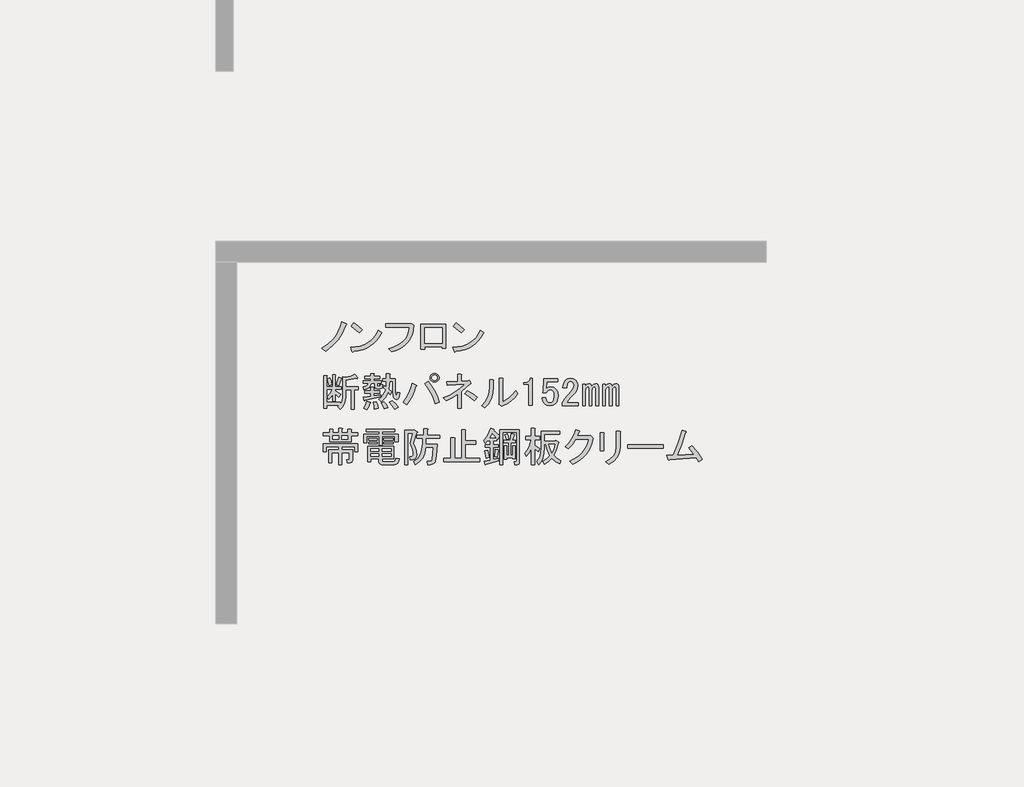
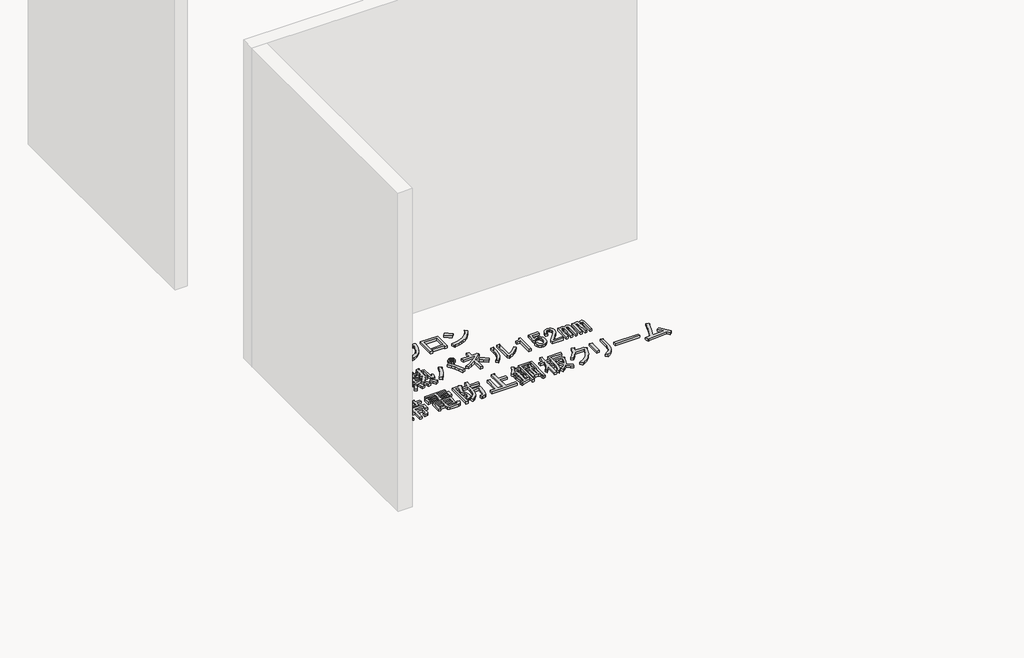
# One storey, part 17 of 117: 1 proxy.
"""IFC4 building model written with IfcOpenShell, lengths in millimetres."""

from ifc_helpers import new_model, si_unit, frame, origin, place, context, project, spatial, polyline, outline, extrude, element, save

model = new_model("IFC4")

# Units and contexts
model_context = context("Model", 3, world=origin())
ifc_project = project(units=[si_unit("LENGTHUNIT", "METRE", prefix="MILLI")], contexts=[model_context])

# Site, building, storey
site = spatial("IfcSite", under=ifc_project)
building = spatial("IfcBuilding", under=site)
storey = spatial("IfcBuildingStorey", under=building, Name="レベル 1", Elevation=500.0)

# Proxy
placement = place(None, origin())
element("IfcBuildingElementProxy", 1, Name="200㎜\u3000MS Pゴシック", ObjectType="200㎜\u3000MS Pゴシック", at=placement, inside=storey, context=model_context, shape_type="SweptSolid", body=[
    extrude(outline(polyline([(-15056.3293015, -12607.0496882), (-15081.9047498, -12666.8215225), (-15110.353844, -12712.7998566), (-15152.0217093, -12758.2034615), (-15201.1610538, -12795.560858), (-15228.7480543, -12773.7211493), (-15181.0455327, -12743.2605029), (-15141.3892195, -12704.7536481), (-15124.0036619, -12680.8305462), (-15108.6296565, -12652.7406577), (-15095.2672031, -12620.4839827), (-15083.9163019, -12584.0605212), (-15052.8809264, -12597.8540214), (-15049.7199159, -12602.4518548), (-15056.3293015, -12607.0496882)])), frame((0.0, 0.0, 500.0), z_axis=(0.0, 0.0, 1.0), x_axis=(1.0, 0.0, 0.0)), (0.0, 0.0, 1.0), 25.0),
    extrude(outline(polyline([(-14956.6022948, -12662.2236891), (-15015.2246708, -12615.0958967), (-14995.6838788, -12590.9572713), (-14968.3842429, -12610.7854279), (-14934.7625862, -12640.3839804), (-14956.6022948, -12662.2236891)])), frame((0.0, 0.0, 500.0), z_axis=(0.0, 0.0, 1.0), x_axis=(1.0, 0.0, 0.0)), (0.0, 0.0, 1.0), 25.0),
    extrude(outline(polyline([(-14794.5286672, -12662.2236891), (-14811.052131, -12691.965924), (-14830.1618761, -12717.9724192), (-14851.8579025, -12740.2431748), (-14876.1402102, -12758.7781907), (-14903.0087992, -12773.577467), (-14932.4636694, -12784.6410036), (-14964.504821, -12791.9688006), (-14999.1322539, -12795.560858), (-15004.8795456, -12803.6070664), (-15010.6268374, -12797.8597747), (-15019.8225042, -12767.9738575), (-14983.9917321, -12765.2977748), (-14951.2142088, -12758.9937141), (-14921.4899342, -12749.0616756), (-14894.8189084, -12735.5016591), (-14871.2011313, -12718.3136646), (-14850.636603, -12697.4976923), (-14833.1253234, -12673.053742), (-14818.6672926, -12644.9818138), (-14794.5286672, -12662.2236891)])), frame((0.0, 0.0, 500.0), z_axis=(0.0, 0.0, 1.0), x_axis=(1.0, 0.0, 0.0)), (0.0, 0.0, 1.0), 25.0),
    extrude(outline(polyline([(-14743.7685864, -12777.1695243), (-14709.985287, -12767.4889298), (-14680.4765359, -12755.1142922), (-14655.242333, -12740.0456116), (-14634.2826783, -12722.282888), (-14617.597572, -12701.8261214), (-14605.1870138, -12678.6753118), (-14597.0510039, -12652.8304591), (-14593.1895423, -12624.2915635), (-14765.6082951, -12624.2915635), (-14765.6082951, -12599.0034798), (-14590.8906256, -12599.0034798), (-14574.7982086, -12595.5551047), (-14562.1541668, -12607.0496882), (-14565.674383, -12643.5449909), (-14573.9361149, -12676.5919185), (-14586.9393625, -12706.1904711), (-14604.6841258, -12732.3406486), (-14627.1704048, -12755.042451), (-14654.3981995, -12774.2958784), (-14686.3675099, -12790.1009308), (-14723.078336, -12802.4576081), (-14743.7685864, -12777.1695243)])), frame((0.0, 0.0, 500.0), z_axis=(0.0, 0.0, 1.0), x_axis=(1.0, 0.0, 0.0)), (0.0, 0.0, 1.0), 25.0),
    extrude(outline(polyline([(-14329.044013, -12776.020066), (-14355.4815551, -12776.020066), (-14355.4815551, -12763.3760241), (-14483.0714321, -12763.3760241), (-14483.0714321, -12781.7673577), (-14509.5089742, -12781.7673577), (-14509.5089742, -12602.4518548), (-14329.044013, -12602.4518548), (-14329.044013, -12776.020066)]), holes=[polyline([(-14483.0714321, -12627.7399386), (-14483.0714321, -12738.0879404), (-14355.4815551, -12738.0879404), (-14355.4815551, -12627.7399386), (-14483.0714321, -12627.7399386)])]), frame((0.0, 0.0, 500.0), z_axis=(0.0, 0.0, 1.0), x_axis=(1.0, 0.0, 0.0)), (0.0, 0.0, 1.0), 25.0),
    extrude(outline(polyline([(-14052.9900951, -12662.2236891), (-14069.5135589, -12691.965924), (-14088.623304, -12717.9724192), (-14110.3193304, -12740.2431748), (-14134.6016381, -12758.7781907), (-14161.4702271, -12773.577467), (-14190.9250974, -12784.6410036), (-14222.9662489, -12791.9688006), (-14257.5936818, -12795.560858), (-14263.3409736, -12803.6070664), (-14269.0882653, -12797.8597747), (-14278.2839321, -12767.9738575), (-14242.4531601, -12765.2977748), (-14209.6756367, -12758.9937141), (-14179.9513622, -12749.0616756), (-14153.2803363, -12735.5016591), (-14129.6625593, -12718.3136646), (-14109.0980309, -12697.4976923), (-14091.5867514, -12673.053742), (-14077.1287205, -12644.9818138), (-14052.9900951, -12662.2236891)])), frame((0.0, 0.0, 500.0), z_axis=(0.0, 0.0, 1.0), x_axis=(1.0, 0.0, 0.0)), (0.0, 0.0, 1.0), 25.0),
    extrude(outline(polyline([(-14215.0637228, -12662.2236891), (-14273.6860987, -12615.0958967), (-14254.1453067, -12590.9572713), (-14226.8456709, -12610.7854279), (-14193.2240141, -12640.3839804), (-14215.0637228, -12662.2236891)])), frame((0.0, 0.0, 500.0), z_axis=(0.0, 0.0, 1.0), x_axis=(1.0, 0.0, 0.0)), (0.0, 0.0, 1.0), 25.0),
    extrude(outline(polyline([(-15122.9978859, -13039.2345221), (-15105.7560106, -12986.3594379), (-15085.0657603, -12992.1067296), (-15083.3415727, -12995.2677401), (-15087.364677, -12997.8540214), (-15104.6065523, -13046.1312722), (-15122.9978859, -13039.2345221)])), frame((0.0, 0.0, 500.0), z_axis=(0.0, 0.0, 1.0), x_axis=(1.0, 0.0, 0.0)), (0.0, 0.0, 1.0), 25.0),
    extrude(outline(polyline([(-14968.9704667, -12990.9572713), (-14970.6946542, -12995.5551047), (-14978.1661335, -12993.256188), (-15055.1798431, -13005.9002299), (-15055.1798431, -13055.326939), (-14963.2231749, -13055.326939), (-14963.2231749, -13077.1666477), (-14994.2585505, -13077.1666477), (-14994.2585505, -13217.4005666), (-15017.2477175, -13217.4005666), (-15017.2477175, -13077.1666477), (-15055.1798431, -13077.1666477), (-15055.1798431, -13126.5933568), (-15057.7661244, -13154.3958807), (-15065.5249683, -13179.1810764), (-15078.4563747, -13200.948944), (-15096.5603438, -13219.6994833), (-15113.8022191, -13200.1586914), (-15103.4570939, -13190.9630245), (-15193.1148454, -13190.9630245), (-15193.1148454, -13212.8027332), (-15216.1040124, -13212.8027332), (-15216.1040124, -12973.715396), (-15194.2643037, -12973.715396), (-15189.3791057, -12976.0143127), (-15193.1148454, -12980.6121461), (-15193.1148454, -13056.4763974), (-15150.5848863, -13056.4763974), (-15150.5848863, -12969.1175626), (-15132.1935527, -12969.1175626), (-15127.3083547, -12971.4164793), (-15131.0440943, -12976.0143127), (-15131.0440943, -13056.4763974), (-15087.364677, -13056.4763974), (-15087.364677, -13074.867731), (-15131.0440943, -13074.867731), (-15131.0440943, -13084.0633978), (-15090.813052, -13110.5009399), (-15104.6065523, -13132.3406486), (-15131.0440943, -13105.9031065), (-15131.0440943, -13158.7781907), (-15150.5848863, -13158.7781907), (-15150.5848863, -13110.5009399), (-15163.8036574, -13130.3290965), (-15178.1718868, -13146.1341488), (-15190.8159287, -13127.7428152), (-15168.97622, -13103.6041898), (-15151.7343447, -13074.867731), (-15193.1148454, -13074.867731), (-15193.1148454, -13169.1233159), (-15095.4108854, -13169.1233159), (-15095.4108854, -13182.9168161), (-15082.479479, -13158.7781907), (-15078.1690102, -13125.4438985), (-15078.1690102, -12980.6121461), (-15056.3293015, -12986.3594379), (-15020.1213634, -12978.8879586), (-14989.660717, -12965.6691875), (-14968.9704667, -12990.9572713)])), frame((0.0, 0.0, 500.0), z_axis=(0.0, 0.0, 1.0), x_axis=(1.0, 0.0, 0.0)), (0.0, 0.0, 1.0), 25.0),
    extrude(outline(polyline([(-15177.0224284, -13047.2807305), (-15189.6664703, -12996.7045631), (-15170.1256783, -12989.8078129), (-15162.3668344, -13013.9464383), (-15157.4816364, -13040.3839804), (-15177.0224284, -13047.2807305)])), frame((0.0, 0.0, 500.0), z_axis=(0.0, 0.0, 1.0), x_axis=(1.0, 0.0, 0.0)), (0.0, 0.0, 1.0), 25.0),
    extrude(outline(polyline([(-14878.1632569, -13167.9738575), (-14874.7148818, -13172.8590555), (-14880.4621736, -13176.020066), (-14890.2325696, -13201.5955143), (-14901.1524239, -13220.8489417), (-14924.141591, -13209.3543582), (-14911.4975491, -13185.790462), (-14901.1524239, -13158.7781907), (-14878.1632569, -13167.9738575)])), frame((0.0, 0.0, 500.0), z_axis=(0.0, 0.0, 1.0), x_axis=(1.0, 0.0, 0.0)), (0.0, 0.0, 1.0), 25.0),
    extrude(outline(polyline([(-14833.3343812, -13163.3760241), (-14823.2766206, -13190.67566), (-14818.3914226, -13212.8027332), (-14847.1278814, -13218.550025), (-14849.7141627, -13196.9976809), (-14857.4730066, -13166.8243992), (-14833.3343812, -13163.3760241)])), frame((0.0, 0.0, 500.0), z_axis=(0.0, 0.0, 1.0), x_axis=(1.0, 0.0, 0.0)), (0.0, 0.0, 1.0), 25.0),
    extrude(outline(polyline([(-14718.388546, -13157.6287323), (-14693.6751914, -13178.8937119), (-14674.7091286, -13203.6070664), (-14701.1466707, -13218.550025), (-14720.4000981, -13188.9514724), (-14739.0787963, -13169.1233159), (-14718.388546, -13157.6287323)])), frame((0.0, 0.0, 500.0), z_axis=(0.0, 0.0, 1.0), x_axis=(1.0, 0.0, 0.0)), (0.0, 0.0, 1.0), 25.0),
    extrude(outline(polyline([(-14777.0109219, -13216.2511083), (-14785.344495, -13191.5377537), (-14798.8506306, -13170.2727742), (-14778.1603803, -13162.2265657), (-14761.2058696, -13183.7789098), (-14749.4239215, -13207.0554415), (-14777.0109219, -13216.2511083)])), frame((0.0, 0.0, 500.0), z_axis=(0.0, 0.0, 1.0), x_axis=(1.0, 0.0, 0.0)), (0.0, 0.0, 1.0), 25.0),
    extrude(outline(polyline([(-14916.0953825, -13153.0308989), (-14918.1069346, -13157.9160969), (-14921.8426743, -13156.479274), (-14927.589966, -13132.3406486), (-14872.4159651, -13124.2944401), (-14872.4159651, -13101.3052731), (-14916.0953825, -13101.3052731), (-14916.0953825, -13082.9139395), (-14872.4159651, -13082.9139395), (-14872.4159651, -13059.9247724), (-14854.0246315, -13059.9247724), (-14849.1394335, -13062.2236891), (-14852.8751732, -13066.8215225), (-14852.8751732, -13082.9139395), (-14808.0462974, -13082.9139395), (-14808.0462974, -13101.3052731), (-14852.8751732, -13101.3052731), (-14852.8751732, -13120.8460651), (-14802.2990057, -13111.6503983), (-14802.2990057, -13127.7428152), (-14916.0953825, -13153.0308989)])), frame((0.0, 0.0, 500.0), z_axis=(0.0, 0.0, 1.0), x_axis=(1.0, 0.0, 0.0)), (0.0, 0.0, 1.0), 25.0),
    extrude(outline(polyline([(-14845.978423, -13031.1883136), (-14871.2665068, -13031.1883136), (-14875.8643402, -13048.6457123), (-14886.2094654, -13061.9363245), (-14902.3018823, -13071.0601502), (-14924.141591, -13076.0171893), (-14928.7394244, -13056.4763974), (-14903.4513406, -13047.8554597), (-14895.9798614, -13040.5276627), (-14891.9567571, -13031.1883136), (-14927.589966, -13031.1883136), (-14927.589966, -13012.79698), (-14873.5654235, -13012.79698), (-14873.5654235, -12995.5551047), (-14917.2448409, -12995.5551047), (-14917.2448409, -12977.1637711), (-14873.5654235, -12977.1637711), (-14873.5654235, -12958.7724374), (-14851.7257148, -12958.7724374), (-14846.8405168, -12961.0713541), (-14850.5762564, -12965.6691875), (-14850.5762564, -12977.1637711), (-14808.0462974, -12977.1637711), (-14808.0462974, -12995.5551047), (-14850.5762564, -12995.5551047), (-14850.5762564, -13012.79698), (-14797.7011723, -13012.79698), (-14797.7011723, -13031.1883136), (-14826.4376311, -13031.1883136), (-14826.4376311, -13043.8323555), (-14825.0008081, -13049.0049181), (-14820.6903393, -13050.7291056), (-14810.3452141, -13050.7291056), (-14806.6094745, -13047.5680951), (-14806.8968391, -13038.0850637), (-14787.3560471, -13040.3839804), (-14790.229693, -13061.9363245), (-14795.5459378, -13067.3244106), (-14803.448464, -13069.1204392), (-14827.5870894, -13069.1204392), (-14841.3805896, -13064.2352412), (-14845.978423, -13049.5796472), (-14845.978423, -13031.1883136)])), frame((0.0, 0.0, 500.0), z_axis=(0.0, 0.0, 1.0), x_axis=(1.0, 0.0, 0.0)), (0.0, 0.0, 1.0), 25.0),
    extrude(outline(polyline([(-14714.9401709, -13013.9464383), (-14736.7798796, -13013.9464383), (-14741.377713, -13071.4193559), (-14721.836921, -13089.8106896), (-14732.1820462, -13111.6503983), (-14748.2744631, -13095.5579813), (-14767.5278905, -13133.2027424), (-14797.7011723, -13165.6749408), (-14814.9430475, -13144.9846905), (-14799.8564067, -13133.0590601), (-14786.7813179, -13117.9724192), (-14775.7177813, -13099.7247679), (-14766.6657967, -13078.316106), (-14783.907672, -13063.3731475), (-14775.8614636, -13046.1312722), (-14762.0679633, -13056.4763974), (-14759.7690466, -13013.9464383), (-14787.3560471, -13013.9464383), (-14787.3560471, -12995.5551047), (-14759.7690466, -12995.5551047), (-14759.7690466, -12961.0713541), (-14737.9293379, -12961.0713541), (-14733.04414, -12963.3702708), (-14736.7798796, -12967.9681043), (-14736.7798796, -12995.5551047), (-14695.3993789, -12995.5551047), (-14695.3993789, -13092.1096063), (-14691.9510039, -13116.2482317), (-14688.7181523, -13118.2597838), (-14685.9163475, -13115.0987733), (-14681.6058787, -13093.2590646), (-14662.0650867, -13100.1558147), (-14666.591079, -13126.9525626), (-14674.421764, -13142.9731384), (-14685.5571418, -13148.2175421), (-14699.9972123, -13142.6857738), (-14706.5347567, -13135.3579768), (-14711.2044313, -13123.719711), (-14714.9401709, -13087.5117729), (-14714.9401709, -13013.9464383)])), frame((0.0, 0.0, 500.0), z_axis=(0.0, 0.0, 1.0), x_axis=(1.0, 0.0, 0.0)), (0.0, 0.0, 1.0), 25.0),
    extrude(outline(polyline([(-14456.3120417, -13016.245355), (-14429.6589762, -13052.9561812), (-14407.1726971, -13090.6727833), (-14388.8532047, -13129.3951616), (-14374.7004987, -13169.1233159), (-14405.7358742, -13179.468441), (-14421.1817208, -13136.3637528), (-14438.7828018, -13097.856898), (-14458.5391173, -13063.9478766), (-14480.4506671, -13034.6366887), (-14456.3120417, -13016.245355)])), frame((0.0, 0.0, 500.0), z_axis=(0.0, 0.0, 1.0), x_axis=(1.0, 0.0, 0.0)), (0.0, 0.0, 1.0), 25.0),
    extrude(outline(polyline([(-14543.6708765, -13042.6828971), (-14539.6477722, -13048.1428243), (-14545.9697932, -13053.0280223), (-14557.8954236, -13088.4457078), (-14572.9820644, -13122.282888), (-14591.2297158, -13154.539563), (-14612.6383776, -13185.2157328), (-14639.0759197, -13167.9738575), (-14615.8712292, -13136.5074351), (-14596.8333252, -13103.0294606), (-14581.9622078, -13067.539934), (-14571.2578769, -13030.0388553), (-14543.6708765, -13042.6828971)])), frame((0.0, 0.0, 500.0), z_axis=(0.0, 0.0, 1.0), x_axis=(1.0, 0.0, 0.0)), (0.0, 0.0, 1.0), 25.0),
    extrude(outline(polyline([(-14410.3337076, -13021.9926468), (-14422.9777495, -13019.6937301), (-14433.3228747, -13012.79698), (-14440.2196248, -13002.4518548), (-14442.5185415, -12989.8078129), (-14440.2196248, -12977.1637711), (-14433.3228747, -12966.8186459), (-14422.9777495, -12959.9218958), (-14410.3337076, -12957.6229791), (-14397.6896657, -12959.9218958), (-14387.3445406, -12966.8186459), (-14380.4477905, -12977.1637711), (-14378.1488738, -12989.8078129), (-14380.4477905, -13002.4518548), (-14387.3445406, -13012.79698), (-14397.6896657, -13019.6937301), (-14410.3337076, -13021.9926468)]), holes=[polyline([(-14410.3337076, -13010.4980633), (-14402.0001346, -13009.0612403), (-14395.390749, -13004.7507715), (-14391.0802802, -12998.141386), (-14389.6434573, -12989.8078129), (-14391.0802802, -12981.4742399), (-14395.390749, -12974.8648544), (-14402.0001346, -12970.5543855), (-14410.3337076, -12969.1175626), (-14418.6672807, -12970.5543855), (-14425.2766662, -12974.8648544), (-14429.587135, -12981.4742399), (-14431.023958, -12989.8078129), (-14429.587135, -12998.141386), (-14425.2766662, -13004.7507715), (-14418.6672807, -13009.0612403), (-14410.3337076, -13010.4980633)])]), frame((0.0, 0.0, 500.0), z_axis=(0.0, 0.0, 1.0), x_axis=(1.0, 0.0, 0.0)), (0.0, 0.0, 1.0), 25.0),
    extrude(outline(polyline([(-14120.6702029, -13155.3298156), (-14157.7402348, -13126.0186277), (-14190.7871624, -13104.7536481), (-14173.5452871, -13082.9139395), (-14134.7510677, -13106.1904711), (-14101.1294109, -13132.3406486), (-14120.6702029, -13155.3298156)])), frame((0.0, 0.0, 500.0), z_axis=(0.0, 0.0, 1.0), x_axis=(1.0, 0.0, 0.0)), (0.0, 0.0, 1.0), 25.0),
    extrude(outline(polyline([(-14166.648537, -13011.6475216), (-14159.7517869, -13009.3486049), (-14147.107745, -13026.5904802), (-14145.9582866, -13032.6251366), (-14151.7055784, -13034.6366887), (-14214.9257878, -13090.9601479), (-14214.9257878, -13211.6532749), (-14241.3633299, -13211.6532749), (-14241.3633299, -13109.3514816), (-14281.5943722, -13133.4901069), (-14326.4232479, -13155.3298156), (-14345.9640399, -13134.6395653), (-14300.4167527, -13115.1706145), (-14259.1799343, -13092.3969709), (-14222.2535848, -13066.3186345), (-14189.637704, -13036.9356054), (-14319.5264978, -13042.6828971), (-14322.9748729, -13017.3948134), (-14241.3633299, -13015.0958967), (-14241.3633299, -12963.3702708), (-14218.3741628, -12963.3702708), (-14212.3395065, -12966.8186459), (-14214.9257878, -12972.5659377), (-14214.9257878, -13013.9464383), (-14166.648537, -13011.6475216)])), frame((0.0, 0.0, 500.0), z_axis=(0.0, 0.0, 1.0), x_axis=(1.0, 0.0, 0.0)), (0.0, 0.0, 1.0), 25.0),
    extrude(outline(polyline([(-14067.703162, -13193.2619413), (-14042.5587606, -13164.0225944), (-14024.5984738, -13131.4785548), (-14013.8223018, -13095.6298225), (-14010.2302444, -13056.4763974), (-14010.2302444, -13004.7507715), (-13986.091619, -13004.7507715), (-13980.3443273, -13008.1991466), (-13983.7927023, -13013.9464383), (-13983.7927023, -13055.326939), (-13987.6002831, -13101.0897496), (-13999.0230255, -13141.82368), (-14018.0609295, -13177.5287301), (-14044.713995, -13208.2048998), (-14067.703162, -13193.2619413)])), frame((0.0, 0.0, 500.0), z_axis=(0.0, 0.0, 1.0), x_axis=(1.0, 0.0, 0.0)), (0.0, 0.0, 1.0), 25.0),
    extrude(outline(polyline([(-13913.6757429, -13162.2265657), (-13888.8905471, -13150.0135708), (-13865.1111275, -13132.9153778), (-13842.3374839, -13110.9319868), (-13820.5696163, -13084.0633978), (-13804.4771994, -13105.9031065), (-13827.753731, -13133.7056304), (-13853.9039086, -13157.3413678), (-13882.9277319, -13176.8103186), (-13914.8252012, -13192.1124829), (-13924.020868, -13196.7103163), (-13942.4122017, -13182.9168161), (-13940.113285, -13177.1695243), (-13940.113285, -12992.1067296), (-13915.9746596, -12992.1067296), (-13910.2273678, -12995.5551047), (-13913.6757429, -13001.3023965), (-13913.6757429, -13162.2265657)])), frame((0.0, 0.0, 500.0), z_axis=(0.0, 0.0, 1.0), x_axis=(1.0, 0.0, 0.0)), (0.0, 0.0, 1.0), 25.0),
    extrude(outline(polyline([(-13725.1645731, -13015.0958967), (-13717.1183647, -13004.1760423), (-13713.6699896, -12992.1067296), (-13699.8764894, -12992.1067296), (-13699.8764894, -13190.9630245), (-13726.3140315, -13190.9630245), (-13726.3140315, -13038.0850637), (-13760.797782, -13038.0850637), (-13760.797782, -13024.2915635), (-13750.4526569, -13024.2915635), (-13736.0844275, -13021.9926468), (-13725.1645731, -13015.0958967)])), frame((0.0, 0.0, 500.0), z_axis=(0.0, 0.0, 1.0), x_axis=(1.0, 0.0, 0.0)), (0.0, 0.0, 1.0), 25.0),
    extrude(outline(polyline([(-13615.9660297, -12995.5551047), (-13517.1126114, -12995.5551047), (-13517.1126114, -13017.3948134), (-13594.126321, -13017.3948134), (-13594.126321, -13020.8431884), (-13597.5746961, -13063.3731475), (-13598.7241544, -13070.2698976), (-13583.2064667, -13059.9247724), (-13566.5393205, -13056.4763974), (-13545.5617056, -13060.212137), (-13528.6071949, -13071.4193559), (-13516.5378822, -13091.2475125), (-13512.514778, -13118.5471484), (-13517.6873406, -13153.0308989), (-13524.1530438, -13166.8243992), (-13533.2050283, -13178.3189827), (-13551.3089974, -13190.3882954), (-13573.4360707, -13194.4113996), (-13594.4136856, -13190.67566), (-13611.3681963, -13179.468441), (-13623.437509, -13160.7897428), (-13629.7595299, -13134.6395653), (-13603.3219878, -13134.6395653), (-13599.2988836, -13153.3182635), (-13591.8274043, -13165.6749408), (-13584.0685604, -13170.8475034), (-13574.585529, -13172.5716909), (-13562.2288517, -13170.5601388), (-13552.7458203, -13164.5254825), (-13543.2627889, -13147.5709718), (-13540.1017785, -13121.9955234), (-13542.6880597, -13097.856898), (-13550.4469036, -13082.9139395), (-13557.9183829, -13077.7413769), (-13566.5393205, -13076.0171893), (-13579.470727, -13078.6034706), (-13590.6779459, -13086.3623145), (-13599.8736128, -13096.7074397), (-13622.8627798, -13096.7074397), (-13621.7133214, -13088.6612312), (-13615.9660297, -13000.1529381), (-13615.9660297, -12995.5551047)])), frame((0.0, 0.0, 500.0), z_axis=(0.0, 0.0, 1.0), x_axis=(1.0, 0.0, 0.0)), (0.0, 0.0, 1.0), 25.0),
    extrude(outline(polyline([(-13478.0310274, -13062.2236891), (-13473.433194, -13030.900949), (-13459.6396938, -13008.1991466), (-13443.2599123, -12996.9919276), (-13424.0064849, -12993.256188), (-13401.3046824, -12996.9919276), (-13383.7754426, -13008.1991466), (-13372.5682236, -13024.8662927), (-13368.832484, -13044.9818138), (-13373.1429528, -13070.8446268), (-13386.0743593, -13093.2590646), (-13419.4086515, -13131.1911902), (-13437.7999851, -13151.8814406), (-13451.5934853, -13170.2727742), (-13365.3841089, -13170.2727742), (-13365.3841089, -13192.1124829), (-13482.6288608, -13192.1124829), (-13482.6288608, -13172.5716909), (-13476.5942045, -13158.7781907), (-13463.0880689, -13140.3868571), (-13415.9602764, -13088.6612312), (-13401.3046824, -13067.3962517), (-13396.4194844, -13044.9818138), (-13398.7184011, -13032.337772), (-13405.6151513, -13021.9926468), (-13413.3739951, -13016.8200842), (-13422.8570265, -13015.0958967), (-13431.4779642, -13016.8200842), (-13438.9494435, -13021.9926468), (-13448.4324749, -13038.3724283), (-13451.5934853, -13062.2236891), (-13478.0310274, -13062.2236891)])), frame((0.0, 0.0, 500.0), z_axis=(0.0, 0.0, 1.0), x_axis=(1.0, 0.0, 0.0)), (0.0, 0.0, 1.0), 25.0),
    extrude(outline(polyline([(-13094.1119379, -13032.337772), (-13085.7783648, -13033.7745949), (-13079.1689793, -13038.0850637), (-13073.9964167, -13046.7060014), (-13072.2722292, -13058.7753141), (-13072.2722292, -13193.2619413), (-13091.8130212, -13193.2619413), (-13091.8130212, -13069.1204392), (-13094.3993024, -13059.6374078), (-13102.1581463, -13056.4763974), (-13112.5032715, -13061.0742308), (-13118.5379278, -13069.6951684), (-13120.54948, -13079.4655644), (-13120.54948, -13193.2619413), (-13140.0902719, -13193.2619413), (-13140.0902719, -13069.1204392), (-13142.6765532, -13059.6374078), (-13150.4353971, -13056.4763974), (-13160.7805223, -13061.0742308), (-13166.8151786, -13069.6951684), (-13168.8267307, -13079.4655644), (-13168.8267307, -13193.2619413), (-13188.3675227, -13193.2619413), (-13188.3675227, -13035.786147), (-13168.8267307, -13035.786147), (-13168.8267307, -13053.0280223), (-13156.757418, -13037.5103346), (-13143.538647, -13032.337772), (-13134.3429802, -13033.7745949), (-13127.4462301, -13038.0850637), (-13120.54948, -13051.878564), (-13107.6180735, -13037.22297), (-13094.1119379, -13032.337772)])), frame((0.0, 0.0, 500.0), z_axis=(0.0, 0.0, 1.0), x_axis=(1.0, 0.0, 0.0)), (0.0, 0.0, 1.0), 25.0),
    extrude(outline(polyline([(-13315.9573998, -13193.2619413), (-13335.4981918, -13193.2619413), (-13335.4981918, -13035.786147), (-13315.9573998, -13035.786147), (-13315.9573998, -13053.0280223), (-13303.8880871, -13037.5103346), (-13290.6693161, -13032.337772), (-13281.4736492, -13033.7745949), (-13274.5768991, -13038.0850637), (-13267.680149, -13051.878564), (-13254.7487426, -13037.22297), (-13241.2426069, -13032.337772), (-13232.9090339, -13033.7745949), (-13226.2996483, -13038.0850637), (-13221.1270858, -13046.7060014), (-13219.4028982, -13058.7753141), (-13219.4028982, -13193.2619413), (-13238.9436902, -13193.2619413), (-13238.9436902, -13069.1204392), (-13241.5299715, -13059.6374078), (-13249.2888154, -13056.4763974), (-13259.6339406, -13061.0742308), (-13265.6685969, -13069.6951684), (-13267.680149, -13079.4655644), (-13267.680149, -13193.2619413), (-13287.220941, -13193.2619413), (-13287.220941, -13069.1204392), (-13289.8072223, -13059.6374078), (-13297.5660662, -13056.4763974), (-13307.9111913, -13061.0742308), (-13313.9458477, -13069.6951684), (-13315.9573998, -13079.4655644), (-13315.9573998, -13193.2619413)])), frame((0.0, 0.0, 500.0), z_axis=(0.0, 0.0, 1.0), x_axis=(1.0, 0.0, 0.0)), (0.0, 0.0, 1.0), 25.0),
    extrude(outline(polyline([(-15172.424595, -13453.0280223), (-15172.424595, -13432.337772), (-15172.424595, -13411.6475216), (-15218.4029291, -13411.6475216), (-15218.4029291, -13389.8078129), (-15172.424595, -13389.8078129), (-15172.424595, -13364.5197292), (-15150.5848863, -13364.5197292), (-15145.6996883, -13366.8186459), (-15149.435428, -13371.4164793), (-15149.435428, -13389.8078129), (-15105.7560106, -13389.8078129), (-15105.7560106, -13357.6229791), (-15083.9163019, -13357.6229791), (-15079.0311039, -13359.9218958), (-15082.7668436, -13364.5197292), (-15082.7668436, -13389.8078129), (-15040.2368845, -13389.8078129), (-15040.2368845, -13364.5197292), (-15018.3971758, -13364.5197292), (-15013.5119779, -13366.8186459), (-15017.2477175, -13371.4164793), (-15017.2477175, -13389.8078129), (-14970.1199251, -13389.8078129), (-14970.1199251, -13411.6475216), (-15017.2477175, -13411.6475216), (-15017.2477175, -13453.0280223), (-15172.424595, -13453.0280223)]), holes=[polyline([(-15105.7560106, -13411.6475216), (-15149.435428, -13411.6475216), (-15149.435428, -13434.6366887), (-15105.7560106, -13434.6366887), (-15105.7560106, -13411.6475216)]), polyline([(-15040.2368845, -13411.6475216), (-15082.7668436, -13411.6475216), (-15082.7668436, -13434.6366887), (-15040.2368845, -13434.6366887), (-15040.2368845, -13411.6475216)])]), frame((0.0, 0.0, 500.0), z_axis=(0.0, 0.0, 1.0), x_axis=(1.0, 0.0, 0.0)), (0.0, 0.0, 1.0), 25.0),
    extrude(outline(polyline([(-14967.8210084, -13526.5933568), (-14990.8101754, -13526.5933568), (-14990.8101754, -13489.8106896), (-15082.7668436, -13489.8106896), (-15082.7668436, -13513.949315), (-15005.753134, -13513.949315), (-15005.753134, -13588.6641078), (-15010.3509674, -13602.4576081), (-15024.1444676, -13607.0554415), (-15045.9841763, -13607.0554415), (-15049.4325514, -13585.2157328), (-15033.3401344, -13585.2157328), (-15029.8917594, -13584.0662744), (-15028.742301, -13580.6178994), (-15028.742301, -13535.7890237), (-15082.7668436, -13535.7890237), (-15082.7668436, -13623.1478584), (-15105.7560106, -13623.1478584), (-15105.7560106, -13535.7890237), (-15157.4816364, -13535.7890237), (-15157.4816364, -13608.2048998), (-15180.4708035, -13608.2048998), (-15180.4708035, -13513.949315), (-15105.7560106, -13513.949315), (-15105.7560106, -13489.8106896), (-15197.7126788, -13489.8106896), (-15197.7126788, -13526.5933568), (-15220.7018458, -13526.5933568), (-15220.7018458, -13467.9709809), (-14967.8210084, -13467.9709809), (-14967.8210084, -13526.5933568)])), frame((0.0, 0.0, 500.0), z_axis=(0.0, 0.0, 1.0), x_axis=(1.0, 0.0, 0.0)), (0.0, 0.0, 1.0), 25.0),
    extrude(outline(polyline([(-14778.1603803, -13470.2698976), (-14778.1603803, -13456.4763974), (-14711.4917959, -13456.4763974), (-14711.4917959, -13470.2698976), (-14778.1603803, -13470.2698976)])), frame((0.0, 0.0, 500.0), z_axis=(0.0, 0.0, 1.0), x_axis=(1.0, 0.0, 0.0)), (0.0, 0.0, 1.0), 25.0),
    extrude(outline(polyline([(-14778.1603803, -13442.6828971), (-14778.1603803, -13428.8893969), (-14711.4917959, -13428.8893969), (-14711.4917959, -13442.6828971), (-14778.1603803, -13442.6828971)])), frame((0.0, 0.0, 500.0), z_axis=(0.0, 0.0, 1.0), x_axis=(1.0, 0.0, 0.0)), (0.0, 0.0, 1.0), 25.0),
    extrude(outline(polyline([(-14698.847754, -13381.7616045), (-14790.8044221, -13381.7616045), (-14790.8044221, -13400.1529381), (-14675.8585869, -13400.1529381), (-14675.8585869, -13455.326939), (-14698.847754, -13455.326939), (-14698.847754, -13413.9464383), (-14790.8044221, -13413.9464383), (-14790.8044221, -13479.4655644), (-14813.7935892, -13479.4655644), (-14813.7935892, -13413.9464383), (-14902.3018823, -13413.9464383), (-14902.3018823, -13459.9247724), (-14925.2910493, -13459.9247724), (-14925.2910493, -13400.1529381), (-14813.7935892, -13400.1529381), (-14813.7935892, -13381.7616045), (-14905.7502573, -13381.7616045), (-14905.7502573, -13363.3702708), (-14698.847754, -13363.3702708), (-14698.847754, -13381.7616045)])), frame((0.0, 0.0, 500.0), z_axis=(0.0, 0.0, 1.0), x_axis=(1.0, 0.0, 0.0)), (0.0, 0.0, 1.0), 25.0),
    extrude(outline(polyline([(-14888.5083821, -13442.6828971), (-14888.5083821, -13428.8893969), (-14825.2881727, -13428.8893969), (-14825.2881727, -13442.6828971), (-14888.5083821, -13442.6828971)])), frame((0.0, 0.0, 500.0), z_axis=(0.0, 0.0, 1.0), x_axis=(1.0, 0.0, 0.0)), (0.0, 0.0, 1.0), 25.0),
    extrude(outline(polyline([(-14825.2881727, -13470.2698976), (-14888.5083821, -13470.2698976), (-14888.5083821, -13456.4763974), (-14825.2881727, -13456.4763974), (-14825.2881727, -13470.2698976)])), frame((0.0, 0.0, 500.0), z_axis=(0.0, 0.0, 1.0), x_axis=(1.0, 0.0, 0.0)), (0.0, 0.0, 1.0), 25.0),
    extrude(outline(polyline([(-14666.6629201, -13578.3189827), (-14669.4647249, -13596.9258397), (-14676.7206807, -13610.2164519), (-14688.4307877, -13618.1908193), (-14704.5950457, -13620.8489417), (-14794.2527972, -13620.8489417), (-14809.770485, -13615.9637437), (-14813.6499069, -13609.8572462), (-14814.9430475, -13601.3081497), (-14814.9430475, -13579.468441), (-14874.7148818, -13579.468441), (-14874.7148818, -13599.009233), (-14894.2556738, -13599.009233), (-14894.2556738, -13486.3623145), (-14706.8939624, -13486.3623145), (-14706.8939624, -13579.468441), (-14791.9538805, -13579.468441), (-14791.9538805, -13589.8135662), (-14789.9423284, -13596.7103163), (-14783.907672, -13599.009233), (-14708.0434208, -13599.009233), (-14701.4340353, -13597.4287278), (-14696.5488373, -13592.6872121), (-14691.9510039, -13573.7211493), (-14666.6629201, -13578.3189827)]), holes=[polyline([(-14874.7148818, -13561.0771074), (-14814.9430475, -13561.0771074), (-14814.9430475, -13541.5363154), (-14874.7148818, -13541.5363154), (-14874.7148818, -13561.0771074)]), polyline([(-14874.7148818, -13523.1449818), (-14814.9430475, -13523.1449818), (-14814.9430475, -13504.7536481), (-14874.7148818, -13504.7536481), (-14874.7148818, -13523.1449818)]), polyline([(-14791.9538805, -13561.0771074), (-14726.4347544, -13561.0771074), (-14726.4347544, -13541.5363154), (-14791.9538805, -13541.5363154), (-14791.9538805, -13561.0771074)]), polyline([(-14791.9538805, -13523.1449818), (-14726.4347544, -13523.1449818), (-14726.4347544, -13504.7536481), (-14791.9538805, -13504.7536481), (-14791.9538805, -13523.1449818)])]), frame((0.0, 0.0, 500.0), z_axis=(0.0, 0.0, 1.0), x_axis=(1.0, 0.0, 0.0)), (0.0, 0.0, 1.0), 25.0),
    extrude(outline(polyline([(-14475.8528337, -13495.5579813), (-14483.0369484, -13538.7345107), (-14497.6925424, -13574.0085139), (-14519.8196156, -13601.3799909), (-14549.4181682, -13620.8489417), (-14560.9127517, -13597.8597747), (-14533.2539101, -13578.0316181), (-14513.4975947, -13549.5825239), (-14501.6438055, -13512.512492), (-14497.6925424, -13466.8215225), (-14497.6925424, -13428.8893969), (-14541.3719597, -13428.8893969), (-14541.3719597, -13407.0496882), (-14488.4968756, -13407.0496882), (-14488.4968756, -13358.7724374), (-14463.2087918, -13358.7724374), (-14457.1741355, -13362.2208125), (-14462.0593335, -13367.9681043), (-14462.0593335, -13407.0496882), (-14373.5510404, -13407.0496882), (-14373.5510404, -13428.8893969), (-14474.7033753, -13428.8893969), (-14474.7033753, -13473.7182726), (-14391.942374, -13473.7182726), (-14397.6896657, -13555.9045448), (-14405.7358742, -13600.1586914), (-14410.6210722, -13608.7077879), (-14418.3799161, -13614.8142854), (-14442.5185415, -13619.6994833), (-14460.9098751, -13619.6994833), (-14464.3582502, -13597.8597747), (-14447.1163749, -13597.8597747), (-14434.7596976, -13594.6987642), (-14427.5755829, -13585.2157328), (-14418.3799161, -13495.5579813), (-14475.8528337, -13495.5579813)])), frame((0.0, 0.0, 500.0), z_axis=(0.0, 0.0, 1.0), x_axis=(1.0, 0.0, 0.0)), (0.0, 0.0, 1.0), 25.0),
    extrude(outline(polyline([(-14542.5214181, -13520.8460651), (-14540.5817071, -13548.5049067), (-14545.1076994, -13568.2612221), (-14556.0993949, -13580.1150114), (-14573.5567936, -13584.0662744), (-14587.3502938, -13584.0662744), (-14591.9481272, -13562.2265657), (-14580.4535437, -13562.2265657), (-14572.1199707, -13560.0713313), (-14566.6600435, -13553.6056281), (-14564.0737622, -13542.8294561), (-14564.3611268, -13527.7428152), (-14571.2578769, -13500.7305439), (-14587.3502938, -13465.6720642), (-14568.9589602, -13394.4056463), (-14603.4427108, -13394.4056463), (-14603.4427108, -13623.1478584), (-14626.4318778, -13623.1478584), (-14626.4318778, -13372.5659377), (-14562.0622101, -13372.5659377), (-14559.7632934, -13367.9681043), (-14535.624668, -13380.6121461), (-14534.187845, -13384.3478858), (-14539.073043, -13386.3594379), (-14565.5105851, -13464.5226058), (-14549.9928974, -13496.9948043), (-14542.5214181, -13520.8460651)])), frame((0.0, 0.0, 500.0), z_axis=(0.0, 0.0, 1.0), x_axis=(1.0, 0.0, 0.0)), (0.0, 0.0, 1.0), 25.0),
    extrude(outline(polyline([(-14188.4882457, -13366.8186459), (-14182.4535893, -13370.267021), (-14187.3387873, -13376.0143127), (-14187.3387873, -13446.1312722), (-14111.4745361, -13446.1312722), (-14111.4745361, -13471.4193559), (-14187.3387873, -13471.4193559), (-14187.3387873, -13574.8706076), (-14081.5886189, -13574.8706076), (-14081.5886189, -13600.1586914), (-14344.8145815, -13600.1586914), (-14344.8145815, -13574.8706076), (-14291.9394974, -13574.8706076), (-14291.9394974, -13424.2915635), (-14266.6514136, -13424.2915635), (-14260.6167573, -13427.7399386), (-14265.5019553, -13433.4872303), (-14265.5019553, -13574.8706076), (-14213.7763294, -13574.8706076), (-14213.7763294, -13366.8186459), (-14188.4882457, -13366.8186459)])), frame((0.0, 0.0, 500.0), z_axis=(0.0, 0.0, 1.0), x_axis=(1.0, 0.0, 0.0)), (0.0, 0.0, 1.0), 25.0),
    extrude(outline(polyline([(-13882.732324, -13397.8540214), (-13875.5482093, -13413.0843446), (-13870.0882822, -13433.4872303), (-13887.3301574, -13439.2345221), (-13898.824741, -13402.4518548), (-13882.732324, -13397.8540214)])), frame((0.0, 0.0, 500.0), z_axis=(0.0, 0.0, 1.0), x_axis=(1.0, 0.0, 0.0)), (0.0, 0.0, 1.0), 25.0),
    extrude(outline(polyline([(-13829.8572398, -13399.0034798), (-13827.2709585, -13402.4518548), (-13833.3056149, -13405.9002299), (-13845.9496568, -13443.8323555), (-13825.2594064, -13443.8323555), (-13825.2594064, -13462.2236891), (-13856.2947819, -13462.2236891), (-13856.2947819, -13550.7319822), (-13841.3518234, -13550.7319822), (-13841.3518234, -13482.9139395), (-13825.2594064, -13482.9139395), (-13825.2594064, -13577.1695243), (-13841.3518234, -13577.1695243), (-13841.3518234, -13569.1233159), (-13887.3301574, -13569.1233159), (-13887.3301574, -13581.7673577), (-13903.4225744, -13581.7673577), (-13903.4225744, -13485.2128562), (-13887.3301574, -13485.2128562), (-13887.3301574, -13550.7319822), (-13872.3871989, -13550.7319822), (-13872.3871989, -13462.2236891), (-13908.0204078, -13462.2236891), (-13908.0204078, -13443.8323555), (-13862.0420737, -13443.8323555), (-13851.6969485, -13394.4056463), (-13829.8572398, -13399.0034798)])), frame((0.0, 0.0, 500.0), z_axis=(0.0, 0.0, 1.0), x_axis=(1.0, 0.0, 0.0)), (0.0, 0.0, 1.0), 25.0),
    extrude(outline(polyline([(-13935.6074082, -13365.6691875), (-13795.3734893, -13365.6691875), (-13795.3734893, -13605.9059831), (-13799.1092289, -13617.1132021), (-13810.3164478, -13620.8489417), (-13826.4088648, -13620.8489417), (-13831.0066982, -13599.009233), (-13819.5121147, -13599.009233), (-13816.0637396, -13597.8597747), (-13814.9142813, -13594.4113996), (-13814.9142813, -13384.0605212), (-13916.0666162, -13384.0605212), (-13916.0666162, -13623.1478584), (-13935.6074082, -13623.1478584), (-13935.6074082, -13365.6691875)])), frame((0.0, 0.0, 500.0), z_axis=(0.0, 0.0, 1.0), x_axis=(1.0, 0.0, 0.0)), (0.0, 0.0, 1.0), 25.0),
    extrude(outline(polyline([(-13947.1019917, -13513.949315), (-13944.5157105, -13517.1103254), (-13948.2514501, -13519.6966067), (-13956.2976586, -13566.8243992), (-13974.6889922, -13564.5254825), (-13968.9417004, -13510.5009399), (-13947.1019917, -13513.949315)])), frame((0.0, 0.0, 500.0), z_axis=(0.0, 0.0, 1.0), x_axis=(1.0, 0.0, 0.0)), (0.0, 0.0, 1.0), 25.0),
    extrude(outline(polyline([(-14024.1157013, -13515.0987733), (-14012.6211178, -13566.8243992), (-14033.3113681, -13572.5716909), (-14044.8059517, -13520.8460651), (-14024.1157013, -13515.0987733)])), frame((0.0, 0.0, 500.0), z_axis=(0.0, 0.0, 1.0), x_axis=(1.0, 0.0, 0.0)), (0.0, 0.0, 1.0), 25.0),
    extrude(outline(polyline([(-13950.5503668, -13434.6366887), (-13991.9308675, -13390.9572713), (-14013.7705762, -13430.0388553), (-13958.5965753, -13430.0388553), (-13958.5965753, -13448.4301889), (-13985.0341174, -13448.4301889), (-13985.0341174, -13477.1666477), (-13947.1019917, -13477.1666477), (-13947.1019917, -13495.5579813), (-13985.0341174, -13495.5579813), (-13985.0341174, -13582.9168161), (-13945.9525334, -13572.5716909), (-13943.6536167, -13592.1124829), (-14035.6102848, -13617.4005666), (-14037.9092016, -13623.1478584), (-14042.507035, -13619.6994833), (-14049.4037851, -13596.7103163), (-14004.5749093, -13587.5146495), (-14004.5749093, -13495.5579813), (-14042.507035, -13495.5579813), (-14042.507035, -13477.1666477), (-14004.5749093, -13477.1666477), (-14004.5749093, -13448.4301889), (-14026.414618, -13448.4301889), (-14041.3575766, -13466.8215225), (-14054.0016185, -13446.1312722), (-14025.8398889, -13408.4865112), (-14001.1265343, -13357.6229791), (-13979.2868256, -13363.3702708), (-13975.8384505, -13367.1060105), (-13981.5857423, -13369.1175626), (-13982.7352007, -13372.5659377), (-13937.9063249, -13410.4980633), (-13950.5503668, -13434.6366887)])), frame((0.0, 0.0, 500.0), z_axis=(0.0, 0.0, 1.0), x_axis=(1.0, 0.0, 0.0)), (0.0, 0.0, 1.0), 25.0),
    extrude(outline(polyline([(-13706.8651962, -13623.1478584), (-13706.8651962, -13503.6041898), (-13724.6818006, -13537.8005758), (-13743.6478634, -13559.927649), (-13755.142447, -13539.2373987), (-13737.9005717, -13516.5355963), (-13724.1070714, -13492.1096063), (-13713.7619463, -13465.9594288), (-13706.8651962, -13438.0850637), (-13748.2456968, -13438.0850637), (-13748.2456968, -13416.245355), (-13706.8651962, -13416.245355), (-13706.8651962, -13356.4735207), (-13685.0254875, -13356.4735207), (-13680.1402895, -13358.7724374), (-13683.8760291, -13363.3702708), (-13683.8760291, -13416.245355), (-13645.9439035, -13416.245355), (-13645.9439035, -13438.0850637), (-13683.8760291, -13438.0850637), (-13683.8760291, -13478.316106), (-13645.9439035, -13504.7536481), (-13656.2890287, -13527.7428152), (-13683.8760291, -13504.7536481), (-13683.8760291, -13623.1478584), (-13706.8651962, -13623.1478584)])), frame((0.0, 0.0, 500.0), z_axis=(0.0, 0.0, 1.0), x_axis=(1.0, 0.0, 0.0)), (0.0, 0.0, 1.0), 25.0),
    extrude(outline(polyline([(-13624.1041948, -13594.4113996), (-13595.367736, -13577.1695243), (-13573.5280273, -13555.3298156), (-13591.3446318, -13513.3745858), (-13601.1150278, -13472.5688143), (-13613.7590697, -13472.5688143), (-13613.7590697, -13496.7074397), (-13616.2016686, -13538.4471461), (-13623.5294656, -13572.8590555), (-13635.7424606, -13599.9431679), (-13652.8406536, -13619.6994833), (-13666.6341538, -13596.7103163), (-13653.5590651, -13579.3247587), (-13644.219716, -13557.0540032), (-13638.6161065, -13529.8980496), (-13636.7482367, -13497.856898), (-13636.7482367, -13377.1637711), (-13499.9626928, -13377.1637711), (-13499.9626928, -13399.0034798), (-13613.7590697, -13399.0034798), (-13613.7590697, -13450.7291056), (-13534.4464434, -13450.7291056), (-13528.6991516, -13444.9818138), (-13509.1583596, -13458.7753141), (-13507.7215367, -13462.5110537), (-13512.6067347, -13466.8215225), (-13524.963412, -13513.3745858), (-13543.6421102, -13554.1803573), (-13524.6760474, -13572.5716909), (-13493.0659427, -13590.9630245), (-13502.2616095, -13615.1016499), (-13530.1359745, -13599.009233), (-13558.5850688, -13573.7211493), (-13583.0110587, -13598.1471392), (-13614.908528, -13618.550025), (-13624.1041948, -13594.4113996)]), holes=[polyline([(-13579.2753191, -13472.5688143), (-13571.2291106, -13505.6157419), (-13558.5850688, -13533.4901069), (-13545.9410269, -13507.3399294), (-13537.8948184, -13472.5688143), (-13579.2753191, -13472.5688143)])]), frame((0.0, 0.0, 500.0), z_axis=(0.0, 0.0, 1.0), x_axis=(1.0, 0.0, 0.0)), (0.0, 0.0, 1.0), 25.0),
    extrude(outline(polyline([(-13263.1742723, -13438.0850637), (-13270.1967444, -13468.294266), (-13280.3443064, -13496.2763928), (-13293.6169583, -13522.031444), (-13310.0147001, -13545.5594196), (-13329.5375318, -13566.8603197), (-13352.1854534, -13585.9341443), (-13377.9584649, -13602.7808932), (-13406.8565663, -13617.4005666), (-13427.5468166, -13595.560858), (-13376.8269668, -13568.4049044), (-13355.669749, -13551.7018377), (-13337.314336, -13532.9153778), (-13321.7607277, -13512.0455246), (-13309.0089241, -13489.0922781), (-13299.0589252, -13464.0556384), (-13291.9107311, -13436.9356054), (-13383.8673992, -13436.9356054), (-13410.8796705, -13476.3045539), (-13439.0414001, -13507.0525648), (-13462.0305672, -13492.1096063), (-13434.8027725, -13463.9478766), (-13412.8912226, -13433.4872303), (-13396.2959177, -13400.7276673), (-13385.0168576, -13365.6691875), (-13358.5793155, -13374.8648544), (-13355.7056696, -13378.3132294), (-13360.8782322, -13381.7616045), (-13373.5222741, -13411.6475216), (-13290.7612727, -13411.6475216), (-13280.4161476, -13405.9002299), (-13259.7258972, -13426.5904802), (-13256.5648868, -13433.4872303), (-13263.1742723, -13438.0850637)])), frame((0.0, 0.0, 500.0), z_axis=(0.0, 0.0, 1.0), x_axis=(1.0, 0.0, 0.0)), (0.0, 0.0, 1.0), 25.0),
    extrude(outline(polyline([(-13063.3984107, -13494.408523), (-13068.427291, -13534.495883), (-13083.5139319, -13568.5485867), (-13108.6583333, -13596.566634), (-13143.8604953, -13618.550025), (-13166.8496624, -13599.009233), (-13133.5872113, -13579.468441), (-13109.6641094, -13555.3298156), (-13095.0803565, -13526.5933568), (-13089.8359528, -13493.2590646), (-13089.8359528, -13378.3132294), (-13065.6973274, -13378.3132294), (-13059.3753065, -13381.7616045), (-13063.3984107, -13387.5088962), (-13063.3984107, -13494.408523)])), frame((0.0, 0.0, 500.0), z_axis=(0.0, 0.0, 1.0), x_axis=(1.0, 0.0, 0.0)), (0.0, 0.0, 1.0), 25.0),
    extrude(outline(polyline([(-13181.792621, -13519.6966067), (-13208.230163, -13519.6966067), (-13208.230163, -13389.8078129), (-13182.9420793, -13389.8078129), (-13176.907423, -13392.6814588), (-13181.792621, -13399.0034798), (-13181.792621, -13519.6966067)])), frame((0.0, 0.0, 500.0), z_axis=(0.0, 0.0, 1.0), x_axis=(1.0, 0.0, 0.0)), (0.0, 0.0, 1.0), 25.0),
    extrude(outline(polyline([(-13007.0749514, -13501.3052731), (-13007.0749514, -13476.0171893), (-12750.7457389, -13476.0171893), (-12750.7457389, -13501.3052731), (-13007.0749514, -13501.3052731)])), frame((0.0, 0.0, 500.0), z_axis=(0.0, 0.0, 1.0), x_axis=(1.0, 0.0, 0.0)), (0.0, 0.0, 1.0), 25.0),
    extrude(outline(polyline([(-12723.4346085, -13554.1803573), (-12675.1573577, -13553.0308989), (-12638.662055, -13462.5110537), (-12611.9371483, -13370.267021), (-12585.4996062, -13379.4626878), (-12580.9017728, -13385.4973441), (-12587.798523, -13389.8078129), (-12613.3739713, -13470.8446268), (-12646.4208989, -13550.7319822), (-12526.8772303, -13544.9846905), (-12564.8093559, -13497.856898), (-12541.8201889, -13481.7644811), (-12503.6006987, -13528.0301798), (-12467.105396, -13581.7673577), (-12492.3934797, -13599.009233), (-12510.7848134, -13569.1233159), (-12703.8938165, -13584.0662744), (-12709.9284729, -13589.8135662), (-12714.2389417, -13584.0662744), (-12723.4346085, -13554.1803573)])), frame((0.0, 0.0, 500.0), z_axis=(0.0, 0.0, 1.0), x_axis=(1.0, 0.0, 0.0)), (0.0, 0.0, 1.0), 25.0),
])

save(model, "model.ifc")
